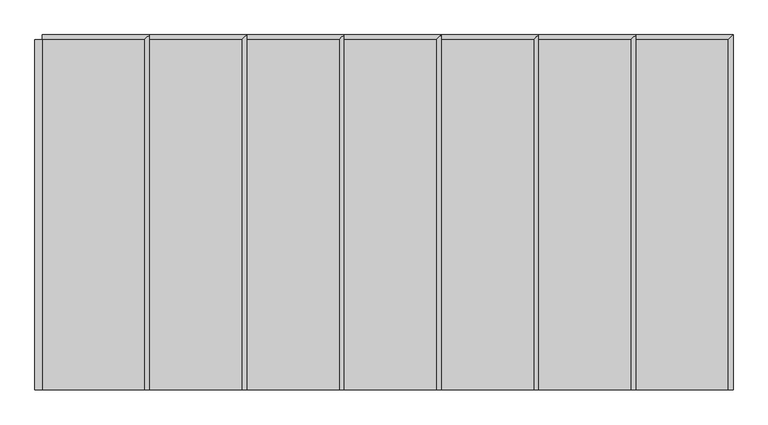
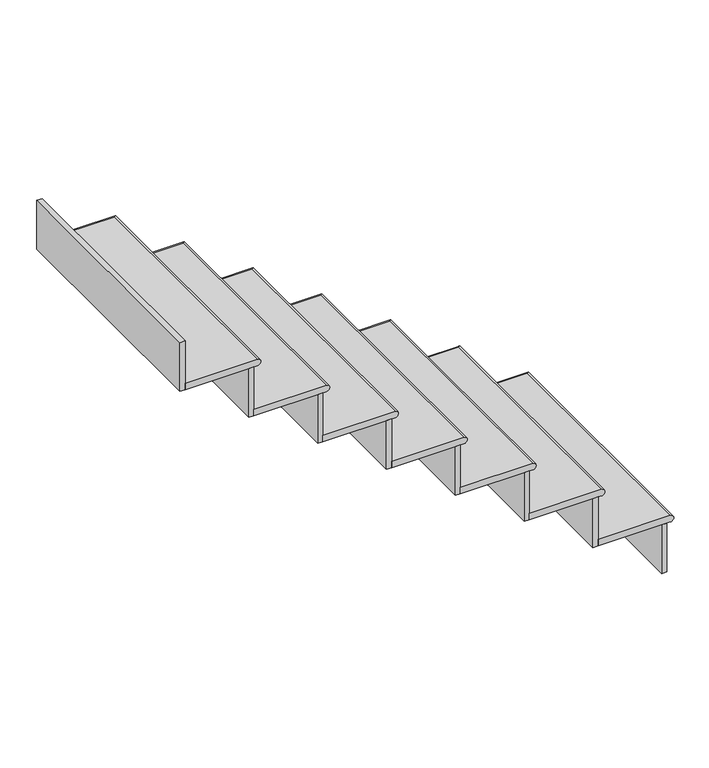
"""IFC4 building model written with IfcOpenShell, lengths in millimetres: stair flight geometry."""

from ifc_helpers import new_model, si_unit, frame, origin, place, context, project, spatial, circle_curve, ellipse_curve, faceted_brep, source, transform, mapped, element, save
from ifc_brep_helpers import plane_surface, cylinder_surface, advanced_brep


def stair_flight_1cd0306f(model_context):
    return source(origin(), model_context, "Body", "SolidModel", [
        advanced_brep(
        [(-16016.7481446, 3029.7568972, 1689.1), (-16016.7481446, 3029.7568972, 1714.5), (-16016.7481446, 2115.3568972, 1714.5), (-16016.7481446, 2115.3568972, 1689.1), (-16283.4481446, 2115.3568972, 1714.5), (-16283.4481446, 3029.7568972, 1714.5), (-16283.4481446, 2115.3568972, 1689.1), (-16283.4481446, 3029.7568972, 1689.1)],
        [
            (0, 1, ellipse_curve(frame((-16016.7481446, 3029.7568972, 1701.8), z_axis=(0.7071067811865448, -0.7071067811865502, 0.0), x_axis=(0.7071067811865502, 0.7071067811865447, 0.0)), 17.9605122, 12.7)),
            (1, 2),
            (2, 3, circle_curve(frame((-16016.7481446, 2115.3568972, 1701.8), z_axis=(0.0, 1.0, 0.0), x_axis=(-1.0, 0.0, 0.0)), 12.7)),
            (3, 0),
            (4, 2),
            (1, 5),
            (5, 4),
            (3, 6),
            (6, 7),
            (7, 0),
            (4, 6),
            (5, 7, circle_curve(frame((-16283.4481446, 3029.7568972, 1701.8), z_axis=(-1.0, 0.0, 0.0), x_axis=(0.0, -1.0, 0.0)), 12.7)),
        ],
        [
            cylinder_surface(frame((-16016.7481446, 3029.7568972, 1701.8), z_axis=(0.0, 1.0, 0.0), x_axis=(-1.0, 0.0, 0.0)), 12.7),
            plane_surface(frame((-16004.0481446, 2115.3568972, 1714.5), z_axis=(0.0, 0.0, 1.0), x_axis=(1.0, 0.0, 0.0))),
            plane_surface(frame((-16004.0481446, 2115.3568972, 1689.1), z_axis=(0.0, 0.0, -1.0), x_axis=(-1.0, 0.0, 0.0))),
            plane_surface(frame((-16283.4481446, 2115.3568972, 1714.5), z_axis=(0.0, -1.0, 0.0), x_axis=(0.0, 0.0, -1.0))),
            plane_surface(frame((-16283.4481446, 3029.7568972, 1714.5), z_axis=(-1.0, 0.0, 0.0), x_axis=(0.0, 0.0, -1.0))),
            cylinder_surface(frame((-16283.4481446, 3029.7568972, 1701.8), z_axis=(-1.0, 0.0, 0.0), x_axis=(0.0, -1.0, 0.0)), 12.7),
        ],
        [
            (0, [[1, 2, 3, 4]]),
            (1, [[5, -2, 6, 7]]),
            (2, [[8, 9, 10, -4]]),
            (3, [[-5, 11, -8, -3]]),
            (4, [[-7, 12, -9, -11]]),
            (5, [[-12, -6, -1, -10]]),
        ],
    ),
        faceted_brep([(-16029.4481446, 3029.7568972, 1689.1), (-16029.4481446, 3029.7568972, 1498.6), (-16048.4981446, 3029.7568972, 1498.6), (-16048.4981446, 3029.7568972, 1689.1), (-16029.4481446, 2115.3568972, 1689.1), (-16048.4981446, 2115.3568972, 1689.1), (-16048.4981446, 2115.3568972, 1498.6), (-16029.4481446, 2115.3568972, 1498.6)], [[[0, 1, 2, 3]], [[4, 5, 6, 7]], [[1, 0, 4, 7]], [[2, 1, 7, 6]], [[3, 2, 6, 5]], [[0, 3, 5, 4]]]),
        faceted_brep([(-16283.4481446, 3029.7568972, 1879.6), (-16283.4481446, 3029.7568972, 1689.1), (-16302.4981446, 3029.7568972, 1689.1), (-16302.4981446, 3029.7568972, 1879.6), (-16283.4481446, 2115.3568972, 1879.6), (-16302.4981446, 2115.3568972, 1879.6), (-16302.4981446, 2115.3568972, 1689.1), (-16283.4481446, 2115.3568972, 1689.1)], [[[0, 1, 2, 3]], [[4, 5, 6, 7]], [[1, 0, 4, 7]], [[2, 1, 7, 6]], [[3, 2, 6, 5]], [[0, 3, 5, 4]]]),
        advanced_brep(
        [(-16537.4481446, 2115.3568972, 1905.0), (-16270.7481446, 2115.3568972, 1905.0), (-16270.7481446, 3029.7568972, 1905.0), (-16537.4481446, 3029.7568972, 1905.0), (-16270.7481446, 2115.3568972, 1879.6), (-16537.4481446, 2115.3568972, 1879.6), (-16537.4481446, 3029.7568972, 1879.6), (-16270.7481446, 3029.7568972, 1879.6)],
        [
            (0, 1),
            (1, 2),
            (2, 3),
            (3, 0),
            (4, 5),
            (5, 6),
            (6, 7),
            (7, 4),
            (0, 5),
            (4, 1, circle_curve(frame((-16270.7481446, 2115.3568972, 1892.3), z_axis=(0.0, -1.0, 0.0), x_axis=(-1.0, 0.0, 0.0)), 12.7)),
            (3, 6, circle_curve(frame((-16537.4481446, 3029.7568972, 1892.3), z_axis=(-1.0, 0.0, 0.0), x_axis=(0.0, -1.0, 0.0)), 12.7)),
            (7, 2, ellipse_curve(frame((-16270.7481446, 3029.7568972, 1892.3), z_axis=(0.7071067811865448, -0.7071067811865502, 0.0), x_axis=(0.7071067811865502, 0.7071067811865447, 0.0)), 17.9605122, 12.7)),
        ],
        [
            plane_surface(frame((-16258.0481446, 2115.3568972, 1905.0), z_axis=(0.0, 0.0, 1.0), x_axis=(1.0, 0.0, 0.0))),
            plane_surface(frame((-16258.0481446, 2115.3568972, 1879.6), z_axis=(0.0, 0.0, -1.0), x_axis=(-1.0, 0.0, 0.0))),
            plane_surface(frame((-16537.4481446, 2115.3568972, 1905.0), z_axis=(0.0, -1.0, 0.0), x_axis=(0.0, 0.0, -1.0))),
            plane_surface(frame((-16537.4481446, 3029.7568972, 1905.0), z_axis=(-1.0, 0.0, 0.0), x_axis=(0.0, 0.0, -1.0))),
            cylinder_surface(frame((-16270.7481446, 3029.7568972, 1892.3), z_axis=(0.0, 1.0, 0.0), x_axis=(-1.0, 0.0, 0.0)), 12.7),
            cylinder_surface(frame((-16537.4481446, 3029.7568972, 1892.3), z_axis=(-1.0, 0.0, 0.0), x_axis=(0.0, -1.0, 0.0)), 12.7),
        ],
        [
            (0, [[1, 2, 3, 4]]),
            (1, [[5, 6, 7, 8]]),
            (2, [[-1, 9, -5, 10]]),
            (3, [[-4, 11, -6, -9]]),
            (4, [[12, -2, -10, -8]]),
            (5, [[-11, -3, -12, -7]]),
        ],
    ),
        faceted_brep([(-16537.4481446, 3029.7568972, 2070.1), (-16537.4481446, 3029.7568972, 1879.6), (-16556.4981446, 3029.7568972, 1879.6), (-16556.4981446, 3029.7568972, 2070.1), (-16537.4481446, 2115.3568972, 2070.1), (-16556.4981446, 2115.3568972, 2070.1), (-16556.4981446, 2115.3568972, 1879.6), (-16537.4481446, 2115.3568972, 1879.6)], [[[0, 1, 2, 3]], [[4, 5, 6, 7]], [[1, 0, 4, 7]], [[2, 1, 7, 6]], [[3, 2, 6, 5]], [[0, 3, 5, 4]]]),
        advanced_brep(
        [(-16791.4481446, 2115.3568972, 2095.5), (-16524.7481446, 2115.3568972, 2095.5), (-16524.7481446, 3029.7568972, 2095.5), (-16791.4481446, 3029.7568972, 2095.5), (-16524.7481446, 2115.3568972, 2070.1), (-16791.4481446, 2115.3568972, 2070.1), (-16791.4481446, 3029.7568972, 2070.1), (-16524.7481446, 3029.7568972, 2070.1)],
        [
            (0, 1),
            (1, 2),
            (2, 3),
            (3, 0),
            (4, 5),
            (5, 6),
            (6, 7),
            (7, 4),
            (0, 5),
            (4, 1, circle_curve(frame((-16524.7481446, 2115.3568972, 2082.8), z_axis=(0.0, -1.0, 0.0), x_axis=(-1.0, 0.0, 0.0)), 12.7)),
            (3, 6, circle_curve(frame((-16791.4481446, 3029.7568972, 2082.8), z_axis=(-1.0, 0.0, 0.0), x_axis=(0.0, -1.0, 0.0)), 12.7)),
            (7, 2, ellipse_curve(frame((-16524.7481446, 3029.7568972, 2082.8), z_axis=(0.7071067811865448, -0.7071067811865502, 0.0), x_axis=(0.7071067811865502, 0.7071067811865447, 0.0)), 17.9605122, 12.7)),
        ],
        [
            plane_surface(frame((-16512.0481446, 2115.3568972, 2095.5), z_axis=(0.0, 0.0, 1.0), x_axis=(1.0, 0.0, 0.0))),
            plane_surface(frame((-16512.0481446, 2115.3568972, 2070.1), z_axis=(0.0, 0.0, -1.0), x_axis=(-1.0, 0.0, 0.0))),
            plane_surface(frame((-16791.4481446, 2115.3568972, 2095.5), z_axis=(0.0, -1.0, 0.0), x_axis=(0.0, 0.0, -1.0))),
            plane_surface(frame((-16791.4481446, 3029.7568972, 2095.5), z_axis=(-1.0, 0.0, 0.0), x_axis=(0.0, 0.0, -1.0))),
            cylinder_surface(frame((-16524.7481446, 3029.7568972, 2082.8), z_axis=(0.0, 1.0, 0.0), x_axis=(-1.0, 0.0, 0.0)), 12.7),
            cylinder_surface(frame((-16791.4481446, 3029.7568972, 2082.8), z_axis=(-1.0, 0.0, 0.0), x_axis=(0.0, -1.0, 0.0)), 12.7),
        ],
        [
            (0, [[1, 2, 3, 4]]),
            (1, [[5, 6, 7, 8]]),
            (2, [[-1, 9, -5, 10]]),
            (3, [[-4, 11, -6, -9]]),
            (4, [[12, -2, -10, -8]]),
            (5, [[-11, -3, -12, -7]]),
        ],
    ),
        faceted_brep([(-16791.4481446, 3029.7568972, 2260.6), (-16791.4481446, 3029.7568972, 2070.1), (-16810.4981446, 3029.7568972, 2070.1), (-16810.4981446, 3029.7568972, 2260.6), (-16791.4481446, 2115.3568972, 2260.6), (-16810.4981446, 2115.3568972, 2260.6), (-16810.4981446, 2115.3568972, 2070.1), (-16791.4481446, 2115.3568972, 2070.1)], [[[0, 1, 2, 3]], [[4, 5, 6, 7]], [[1, 0, 4, 7]], [[2, 1, 7, 6]], [[3, 2, 6, 5]], [[0, 3, 5, 4]]]),
        advanced_brep(
        [(-17045.4481446, 2115.3568972, 2286.0), (-16778.7481446, 2115.3568972, 2286.0), (-16778.7481446, 3029.7568972, 2286.0), (-17045.4481446, 3029.7568972, 2286.0), (-16778.7481446, 2115.3568972, 2260.6), (-17045.4481446, 2115.3568972, 2260.6), (-17045.4481446, 3029.7568972, 2260.6), (-16778.7481446, 3029.7568972, 2260.6)],
        [
            (0, 1),
            (1, 2),
            (2, 3),
            (3, 0),
            (4, 5),
            (5, 6),
            (6, 7),
            (7, 4),
            (0, 5),
            (4, 1, circle_curve(frame((-16778.7481446, 2115.3568972, 2273.3), z_axis=(0.0, -1.0, 0.0), x_axis=(-1.0, 0.0, 0.0)), 12.7)),
            (3, 6, circle_curve(frame((-17045.4481446, 3029.7568972, 2273.3), z_axis=(-1.0, 0.0, 0.0), x_axis=(0.0, -1.0, 0.0)), 12.7)),
            (7, 2, ellipse_curve(frame((-16778.7481446, 3029.7568972, 2273.3), z_axis=(0.7071067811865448, -0.7071067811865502, 0.0), x_axis=(0.7071067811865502, 0.7071067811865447, 0.0)), 17.9605122, 12.7)),
        ],
        [
            plane_surface(frame((-16766.0481446, 2115.3568972, 2286.0), z_axis=(0.0, 0.0, 1.0), x_axis=(1.0, 0.0, 0.0))),
            plane_surface(frame((-16766.0481446, 2115.3568972, 2260.6), z_axis=(0.0, 0.0, -1.0), x_axis=(-1.0, 0.0, 0.0))),
            plane_surface(frame((-17045.4481446, 2115.3568972, 2286.0), z_axis=(0.0, -1.0, 0.0), x_axis=(0.0, 0.0, -1.0))),
            plane_surface(frame((-17045.4481446, 3029.7568972, 2286.0), z_axis=(-1.0, 0.0, 0.0), x_axis=(0.0, 0.0, -1.0))),
            cylinder_surface(frame((-16778.7481446, 3029.7568972, 2273.3), z_axis=(0.0, 1.0, 0.0), x_axis=(-1.0, 0.0, 0.0)), 12.7),
            cylinder_surface(frame((-17045.4481446, 3029.7568972, 2273.3), z_axis=(-1.0, 0.0, 0.0), x_axis=(0.0, -1.0, 0.0)), 12.7),
        ],
        [
            (0, [[1, 2, 3, 4]]),
            (1, [[5, 6, 7, 8]]),
            (2, [[-1, 9, -5, 10]]),
            (3, [[-4, 11, -6, -9]]),
            (4, [[12, -2, -10, -8]]),
            (5, [[-11, -3, -12, -7]]),
        ],
    ),
        faceted_brep([(-17045.4481446, 3029.7568972, 2451.1), (-17045.4481446, 3029.7568972, 2260.6), (-17064.4981446, 3029.7568972, 2260.6), (-17064.4981446, 3029.7568972, 2451.1), (-17045.4481446, 2115.3568972, 2451.1), (-17064.4981446, 2115.3568972, 2451.1), (-17064.4981446, 2115.3568972, 2260.6), (-17045.4481446, 2115.3568972, 2260.6)], [[[0, 1, 2, 3]], [[4, 5, 6, 7]], [[1, 0, 4, 7]], [[2, 1, 7, 6]], [[3, 2, 6, 5]], [[0, 3, 5, 4]]]),
        advanced_brep(
        [(-17299.4481446, 2115.3568972, 2476.5), (-17032.7481446, 2115.3568972, 2476.5), (-17032.7481446, 3029.7568972, 2476.5), (-17299.4481446, 3029.7568972, 2476.5), (-17032.7481446, 2115.3568972, 2451.1), (-17299.4481446, 2115.3568972, 2451.1), (-17299.4481446, 3029.7568972, 2451.1), (-17032.7481446, 3029.7568972, 2451.1)],
        [
            (0, 1),
            (1, 2),
            (2, 3),
            (3, 0),
            (4, 5),
            (5, 6),
            (6, 7),
            (7, 4),
            (0, 5),
            (4, 1, circle_curve(frame((-17032.7481446, 2115.3568972, 2463.8), z_axis=(0.0, -1.0, 0.0), x_axis=(-1.0, 0.0, 0.0)), 12.7)),
            (3, 6, circle_curve(frame((-17299.4481446, 3029.7568972, 2463.8), z_axis=(-1.0, 0.0, 0.0), x_axis=(0.0, -1.0, 0.0)), 12.7)),
            (7, 2, ellipse_curve(frame((-17032.7481446, 3029.7568972, 2463.8), z_axis=(0.7071067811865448, -0.7071067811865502, 0.0), x_axis=(0.7071067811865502, 0.7071067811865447, 0.0)), 17.9605122, 12.7)),
        ],
        [
            plane_surface(frame((-17020.0481446, 2115.3568972, 2476.5), z_axis=(0.0, 0.0, 1.0), x_axis=(1.0, 0.0, 0.0))),
            plane_surface(frame((-17020.0481446, 2115.3568972, 2451.1), z_axis=(0.0, 0.0, -1.0), x_axis=(-1.0, 0.0, 0.0))),
            plane_surface(frame((-17299.4481446, 2115.3568972, 2476.5), z_axis=(0.0, -1.0, 0.0), x_axis=(0.0, 0.0, -1.0))),
            plane_surface(frame((-17299.4481446, 3029.7568972, 2476.5), z_axis=(-1.0, 0.0, 0.0), x_axis=(0.0, 0.0, -1.0))),
            cylinder_surface(frame((-17032.7481446, 3029.7568972, 2463.8), z_axis=(0.0, 1.0, 0.0), x_axis=(-1.0, 0.0, 0.0)), 12.7),
            cylinder_surface(frame((-17299.4481446, 3029.7568972, 2463.8), z_axis=(-1.0, 0.0, 0.0), x_axis=(0.0, -1.0, 0.0)), 12.7),
        ],
        [
            (0, [[1, 2, 3, 4]]),
            (1, [[5, 6, 7, 8]]),
            (2, [[-1, 9, -5, 10]]),
            (3, [[-4, 11, -6, -9]]),
            (4, [[12, -2, -10, -8]]),
            (5, [[-11, -3, -12, -7]]),
        ],
    ),
        faceted_brep([(-17299.4481446, 3029.7568972, 2641.6), (-17299.4481446, 3029.7568972, 2451.1), (-17318.4981446, 3029.7568972, 2451.1), (-17318.4981446, 3029.7568972, 2641.6), (-17299.4481446, 2115.3568972, 2641.6), (-17318.4981446, 2115.3568972, 2641.6), (-17318.4981446, 2115.3568972, 2451.1), (-17299.4481446, 2115.3568972, 2451.1)], [[[0, 1, 2, 3]], [[4, 5, 6, 7]], [[1, 0, 4, 7]], [[2, 1, 7, 6]], [[3, 2, 6, 5]], [[0, 3, 5, 4]]]),
        advanced_brep(
        [(-17553.4481446, 2115.3568972, 2667.0), (-17286.7481446, 2115.3568972, 2667.0), (-17286.7481446, 3029.7568972, 2667.0), (-17553.4481446, 3029.7568972, 2667.0), (-17286.7481446, 2115.3568972, 2641.6), (-17553.4481446, 2115.3568972, 2641.6), (-17553.4481446, 3029.7568972, 2641.6), (-17286.7481446, 3029.7568972, 2641.6)],
        [
            (0, 1),
            (1, 2),
            (2, 3),
            (3, 0),
            (4, 5),
            (5, 6),
            (6, 7),
            (7, 4),
            (0, 5),
            (4, 1, circle_curve(frame((-17286.7481446, 2115.3568972, 2654.3), z_axis=(0.0, -1.0, 0.0), x_axis=(-1.0, 0.0, 0.0)), 12.7)),
            (3, 6, circle_curve(frame((-17553.4481446, 3029.7568972, 2654.3), z_axis=(-1.0, 0.0, 0.0), x_axis=(0.0, -1.0, 0.0)), 12.7)),
            (7, 2, ellipse_curve(frame((-17286.7481446, 3029.7568972, 2654.3), z_axis=(0.7071067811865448, -0.7071067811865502, 0.0), x_axis=(0.7071067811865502, 0.7071067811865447, 0.0)), 17.9605122, 12.7)),
        ],
        [
            plane_surface(frame((-17274.0481446, 2115.3568972, 2667.0), z_axis=(0.0, 0.0, 1.0), x_axis=(1.0, 0.0, 0.0))),
            plane_surface(frame((-17274.0481446, 2115.3568972, 2641.6), z_axis=(0.0, 0.0, -1.0), x_axis=(-1.0, 0.0, 0.0))),
            plane_surface(frame((-17553.4481446, 2115.3568972, 2667.0), z_axis=(0.0, -1.0, 0.0), x_axis=(0.0, 0.0, -1.0))),
            plane_surface(frame((-17553.4481446, 3029.7568972, 2667.0), z_axis=(-1.0, 0.0, 0.0), x_axis=(0.0, 0.0, -1.0))),
            cylinder_surface(frame((-17286.7481446, 3029.7568972, 2654.3), z_axis=(0.0, 1.0, 0.0), x_axis=(-1.0, 0.0, 0.0)), 12.7),
            cylinder_surface(frame((-17553.4481446, 3029.7568972, 2654.3), z_axis=(-1.0, 0.0, 0.0), x_axis=(0.0, -1.0, 0.0)), 12.7),
        ],
        [
            (0, [[1, 2, 3, 4]]),
            (1, [[5, 6, 7, 8]]),
            (2, [[-1, 9, -5, 10]]),
            (3, [[-4, 11, -6, -9]]),
            (4, [[12, -2, -10, -8]]),
            (5, [[-11, -3, -12, -7]]),
        ],
    ),
        faceted_brep([(-17553.4481446, 3029.7568972, 2832.1), (-17553.4481446, 3029.7568972, 2641.6), (-17572.4981446, 3029.7568972, 2641.6), (-17572.4981446, 3029.7568972, 2832.1), (-17553.4481446, 2115.3568972, 2832.1), (-17572.4981446, 2115.3568972, 2832.1), (-17572.4981446, 2115.3568972, 2641.6), (-17553.4481446, 2115.3568972, 2641.6)], [[[0, 1, 2, 3]], [[4, 5, 6, 7]], [[1, 0, 4, 7]], [[2, 1, 7, 6]], [[3, 2, 6, 5]], [[0, 3, 5, 4]]]),
        faceted_brep([(-17807.4481446, 3029.7568972, 3022.6), (-17807.4481446, 3029.7568972, 2832.1), (-17826.4981446, 3029.7568972, 2832.1), (-17826.4981446, 3029.7568972, 3022.6), (-17807.4481446, 2115.3568972, 3022.6), (-17826.4981446, 2115.3568972, 3022.6), (-17826.4981446, 2115.3568972, 2832.1), (-17807.4481446, 2115.3568972, 2832.1)], [[[0, 1, 2, 3]], [[4, 5, 6, 7]], [[1, 0, 4, 7]], [[2, 1, 7, 6]], [[3, 2, 6, 5]], [[0, 3, 5, 4]]]),
        advanced_brep(
        [(-17807.4481446, 2115.3568972, 2857.5), (-17540.7481446, 2115.3568972, 2857.5), (-17540.7481446, 3029.7568972, 2857.5), (-17807.4481446, 3029.7568972, 2857.5), (-17540.7481446, 2115.3568972, 2832.1), (-17807.4481446, 2115.3568972, 2832.1), (-17807.4481446, 3029.7568972, 2832.1), (-17540.7481446, 3029.7568972, 2832.1)],
        [
            (0, 1),
            (1, 2),
            (2, 3),
            (3, 0),
            (4, 5),
            (5, 6),
            (6, 7),
            (7, 4),
            (0, 5),
            (4, 1, circle_curve(frame((-17540.7481446, 2115.3568972, 2844.8), z_axis=(0.0, -1.0, 0.0), x_axis=(-1.0, 0.0, 0.0)), 12.7)),
            (3, 6, circle_curve(frame((-17807.4481446, 3029.7568972, 2844.8), z_axis=(-1.0, 0.0, 0.0), x_axis=(0.0, -1.0, 0.0)), 12.7)),
            (7, 2, ellipse_curve(frame((-17540.7481446, 3029.7568972, 2844.8), z_axis=(0.7071067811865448, -0.7071067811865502, 0.0), x_axis=(0.7071067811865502, 0.7071067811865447, 0.0)), 17.9605122, 12.7)),
        ],
        [
            plane_surface(frame((-17528.0481446, 2115.3568972, 2857.5), z_axis=(0.0, 0.0, 1.0), x_axis=(1.0, 0.0, 0.0))),
            plane_surface(frame((-17528.0481446, 2115.3568972, 2832.1), z_axis=(0.0, 0.0, -1.0), x_axis=(-1.0, 0.0, 0.0))),
            plane_surface(frame((-17807.4481446, 2115.3568972, 2857.5), z_axis=(0.0, -1.0, 0.0), x_axis=(0.0, 0.0, -1.0))),
            plane_surface(frame((-17807.4481446, 3029.7568972, 2857.5), z_axis=(-1.0, 0.0, 0.0), x_axis=(0.0, 0.0, -1.0))),
            cylinder_surface(frame((-17540.7481446, 3029.7568972, 2844.8), z_axis=(0.0, 1.0, 0.0), x_axis=(-1.0, 0.0, 0.0)), 12.7),
            cylinder_surface(frame((-17807.4481446, 3029.7568972, 2844.8), z_axis=(-1.0, 0.0, 0.0), x_axis=(0.0, -1.0, 0.0)), 12.7),
        ],
        [
            (0, [[1, 2, 3, 4]]),
            (1, [[5, 6, 7, 8]]),
            (2, [[-1, 9, -5, 10]]),
            (3, [[-4, 11, -6, -9]]),
            (4, [[12, -2, -10, -8]]),
            (5, [[-11, -3, -12, -7]]),
        ],
    ),
    ])


if __name__ == "__main__":
    model = new_model("IFC4")
    model_context = context("Model", 3, world=origin())
    ifc_project = project(units=[si_unit("LENGTHUNIT", "METRE", prefix="MILLI")], contexts=[model_context])
    site = spatial("IfcSite", under=ifc_project)
    building = spatial("IfcBuilding", under=site)
    placement = place(None, origin())
    stair_flight_shape = stair_flight_1cd0306f(model_context)
    element("IfcStairFlight", 1, ObjectType="Unassigned Steps with 1\" Tread 1\" Nosing 3/4\" Riser (2)", at=placement, inside=building, context=model_context, shape_type="MappedRepresentation", body=[
        mapped(stair_flight_shape, transform((0.0, 0.0, 0.0), x_axis=(1.0, 0.0, 0.0), y_axis=(0.0, 1.0, 0.0), z_axis=(0.0, 0.0, 1.0))),
    ])
    save(model, "model.ifc")
